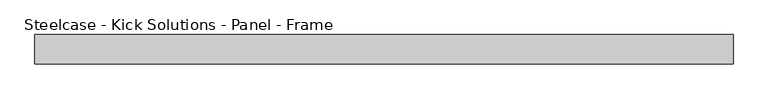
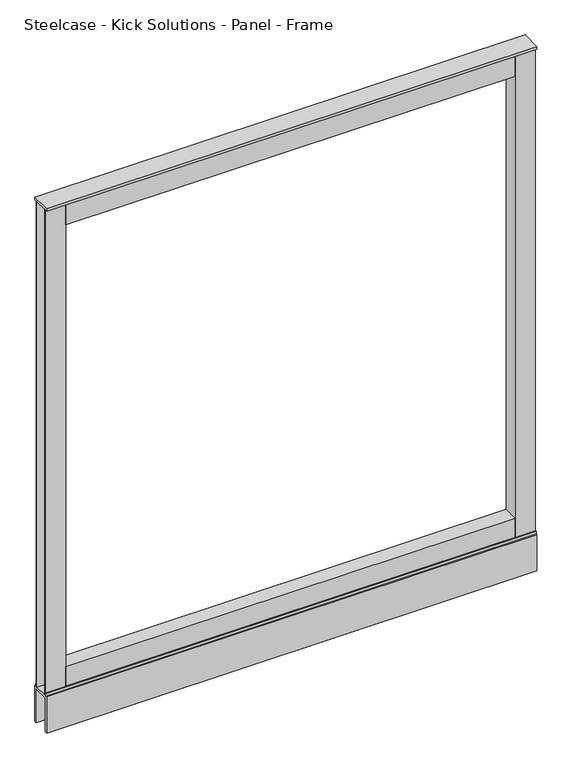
"""IFC4 building model written with IfcOpenShell, lengths in millimetres: furniture geometry, Steelcase - Kick Solutions - Panel - Frame : 54H x 48W."""

from ifc_helpers import new_model, si_unit, frame, origin, place, context, project, spatial, polyline, outline, extrude, source, transform, mapped, element, save


def steelcase_kick_solutions_panel_frame_d670f3ce(model_context):
    return source(origin(), model_context, "Body", "SweptSolid", [
        extrude(outline(polyline([(50.8006646, 6.3506854), (50.8006646, -31.7493123), (0.0, -31.7493123), (0.0, -29.2093123), (48.2606646, -29.2093123), (48.2606646, 3.8106854), (0.0, 3.8106854), (0.0, 6.3506854), (50.8006646, 6.3506854)])), frame((0.0, 0.0, 95.25), z_axis=(0.0, 0.0, 1.0), x_axis=(1.0, 0.0, 0.0)), (0.0, 0.0, 1.0), 1276.35),
        extrude(outline(polyline([(1168.4006661, 6.3506854), (1219.2, 6.3506854), (1219.2, 3.8106854), (1170.9393354, 3.8106854), (1170.9393354, -29.2093123), (1219.2, -29.2093123), (1219.2, -31.7493123), (1168.4006661, -31.7493123), (1168.4006661, 6.3506854)])), frame((0.0, 0.0, 95.25), z_axis=(0.0, 0.0, 1.0), x_axis=(1.0, 0.0, 0.0)), (0.0, 0.0, 1.0), 1276.35),
        extrude(outline(polyline([(6.3506854, 101.600003), (9.5256855, 101.600003), (9.5256855, 95.25), (8.409661, 95.25), (8.409661, 100.2902081), (6.3506854, 100.2902081), (6.3506854, 101.600003)])), frame((0.0, 0.0, 0.0), z_axis=(1.0, 0.0, 0.0), x_axis=(0.0, 1.0, 0.0)), (0.0, 0.0, 1.0), 1219.2),
        extrude(outline(polyline([(-34.9243138, 101.600003), (-31.7493123, 101.600003), (-31.7493123, 100.2902081), (-33.8479845, 100.2902081), (-33.8479845, 95.25), (-34.9243138, 95.25), (-34.9243138, 101.600003)])), frame((0.0, 0.0, 0.0), z_axis=(1.0, 0.0, 0.0), x_axis=(0.0, 1.0, 0.0)), (0.0, 0.0, 1.0), 1219.2),
        extrude(outline(polyline([(1168.4006661, -31.7493123), (50.8006646, -31.7493123), (50.8006646, 6.3506854), (1168.4006661, 6.3506854), (1168.4006661, -31.7493123)])), frame((0.0, 0.0, 1314.4500242), z_axis=(0.0, 0.0, 1.0), x_axis=(1.0, 0.0, 0.0)), (0.0, 0.0, 1.0), 57.1499758),
        extrude(outline(polyline([(1168.4006661, -31.7493123), (50.8006646, -31.7493123), (50.8006646, 6.3506854), (1168.4006661, 6.3506854), (1168.4006661, -31.7493123)])), frame((0.0, 0.0, 95.25), z_axis=(0.0, 0.0, 1.0), x_axis=(1.0, 0.0, 0.0)), (0.0, 0.0, 1.0), 57.15),
        extrude(outline(polyline([(1219.2, 12.7000004), (1219.2, -38.1000011), (0.0, -38.1000011), (0.0, 12.7000004), (1219.2, 12.7000004)])), frame((0.0, 0.0, 1371.6), z_axis=(0.0, 0.0, 1.0), x_axis=(1.0, 0.0, 0.0)), (0.0, 0.0, 1.0), 6.35),
        extrude(outline(polyline([(-38.1000011, 95.25), (12.7000004, 95.25), (12.7000004, 0.0), (6.3506854, 0.0), (6.3506854, 88.9), (-31.7493123, 88.9), (-31.7493123, 0.0), (-38.1000011, 0.0), (-38.1000011, 95.25)])), frame((0.0, 0.0, 0.0), z_axis=(1.0, 0.0, 0.0), x_axis=(0.0, 1.0, 0.0)), (0.0, 0.0, 1.0), 1219.2),
    ])


if __name__ == "__main__":
    model = new_model("IFC4")
    model_context = context("Model", 3, world=origin())
    ifc_project = project(units=[si_unit("LENGTHUNIT", "METRE", prefix="MILLI")], contexts=[model_context])
    site = spatial("IfcSite", under=ifc_project)
    building = spatial("IfcBuilding", under=site)
    placement = place(None, origin())
    steelcase_kick_solutions_panel_frame_shape = steelcase_kick_solutions_panel_frame_d670f3ce(model_context)
    element("IfcFurniture", 1, ObjectType="Steelcase - Kick Solutions - Panel - Frame : 54H x 48W", at=placement, inside=building, context=model_context, shape_type="MappedRepresentation", body=[
        mapped(steelcase_kick_solutions_panel_frame_shape, transform((0.0, 0.0, 0.0), x_axis=(1.0, 0.0, 0.0), y_axis=(0.0, 1.0, 0.0), z_axis=(0.0, 0.0, 1.0))),
    ])
    save(model, "model.ifc")
